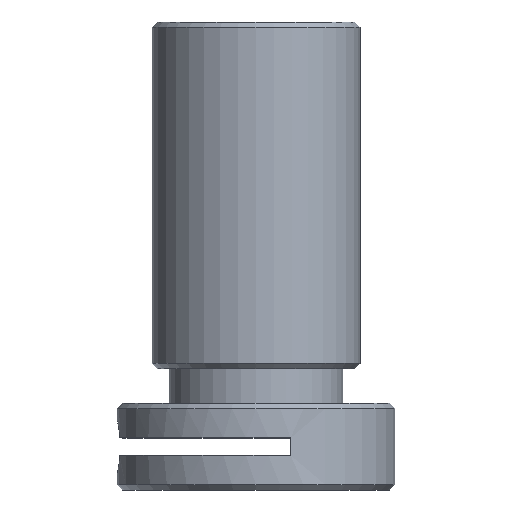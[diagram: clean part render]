
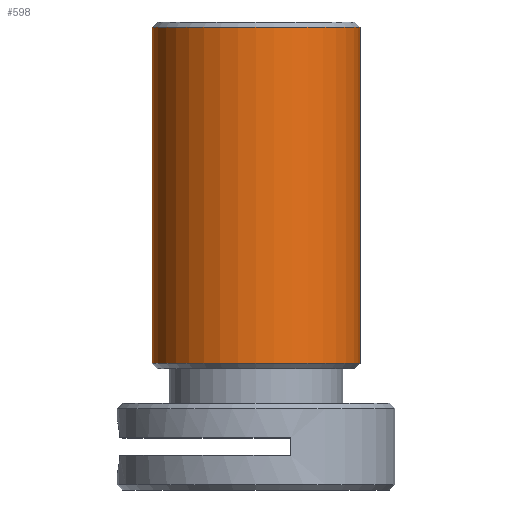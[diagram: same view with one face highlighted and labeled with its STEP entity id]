
A CAD part, front view. The second image highlights one B-rep face of the part: STEP entity #598.
In plain terms, the highlighted cylindrical face has radius 6 mm (diameter 12 mm), a partial arc.
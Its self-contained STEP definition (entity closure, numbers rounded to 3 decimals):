
#11 = CIRCLE ( 'NONE', #699, 6. ) ;
#31 = DIRECTION ( 'NONE',  ( 0., 0., -1. ) ) ;
#38 = CARTESIAN_POINT ( 'NONE',  ( 6., 0., 24.5 ) ) ;
#91 = VERTEX_POINT ( 'NONE', #796 ) ;
#102 = EDGE_LOOP ( 'NONE', ( #685, #1104, #1156, #1205 ) ) ;
#158 = CARTESIAN_POINT ( 'NONE',  ( 0., 0., 24.5 ) ) ;
#177 = VECTOR ( 'NONE', #1394, 1000. ) ;
#207 = EDGE_CURVE ( 'NONE', #1347, #91, #1384, .T. ) ;
#241 = CARTESIAN_POINT ( 'NONE',  ( -6., 0., 24.5 ) ) ;
#276 = DIRECTION ( 'NONE',  ( 0., 0., -1. ) ) ;
#282 = VERTEX_POINT ( 'NONE', #1560 ) ;
#391 = EDGE_CURVE ( 'NONE', #282, #1211, #624, .T. ) ;
#398 = CARTESIAN_POINT ( 'NONE',  ( 0., 0., 24.2 ) ) ;
#434 = CIRCLE ( 'NONE', #1484, 6. ) ;
#442 = EDGE_CURVE ( 'NONE', #1347, #282, #434, .T. ) ;
#487 = AXIS2_PLACEMENT_3D ( 'NONE', #158, #31, #1576 ) ;
#543 = DIRECTION ( 'NONE',  ( 1., 0., 0. ) ) ;
#572 = CARTESIAN_POINT ( 'NONE',  ( -6., 0., 4.8 ) ) ;
#598 = ADVANCED_FACE ( 'NONE', ( #1073 ), #940, .T. ) ;
#624 = LINE ( 'NONE', #241, #1287 ) ;
#685 = ORIENTED_EDGE ( 'NONE', *, *, #207, .F. ) ;
#699 = AXIS2_PLACEMENT_3D ( 'NONE', #1169, #1581, #1062 ) ;
#776 = EDGE_CURVE ( 'NONE', #1211, #91, #11, .T. ) ;
#796 = CARTESIAN_POINT ( 'NONE',  ( 6., 0., 4.8 ) ) ;
#940 = CYLINDRICAL_SURFACE ( 'NONE', #487, 6. ) ;
#1000 = CARTESIAN_POINT ( 'NONE',  ( 6., 0., 24.2 ) ) ;
#1062 = DIRECTION ( 'NONE',  ( 1., 0., 0. ) ) ;
#1073 = FACE_OUTER_BOUND ( 'NONE', #102, .T. ) ;
#1104 = ORIENTED_EDGE ( 'NONE', *, *, #442, .T. ) ;
#1150 = DIRECTION ( 'NONE',  ( 0., 0., -1. ) ) ;
#1156 = ORIENTED_EDGE ( 'NONE', *, *, #391, .T. ) ;
#1169 = CARTESIAN_POINT ( 'NONE',  ( 0., 0., 4.8 ) ) ;
#1205 = ORIENTED_EDGE ( 'NONE', *, *, #776, .T. ) ;
#1211 = VERTEX_POINT ( 'NONE', #572 ) ;
#1287 = VECTOR ( 'NONE', #1150, 1000. ) ;
#1347 = VERTEX_POINT ( 'NONE', #1000 ) ;
#1384 = LINE ( 'NONE', #38, #177 ) ;
#1394 = DIRECTION ( 'NONE',  ( 0., 0., -1. ) ) ;
#1484 = AXIS2_PLACEMENT_3D ( 'NONE', #398, #276, #543 ) ;
#1560 = CARTESIAN_POINT ( 'NONE',  ( -6., 0., 24.2 ) ) ;
#1576 = DIRECTION ( 'NONE',  ( -1., 0., 0. ) ) ;
#1581 = DIRECTION ( 'NONE',  ( 0., 0., 1. ) ) ;
